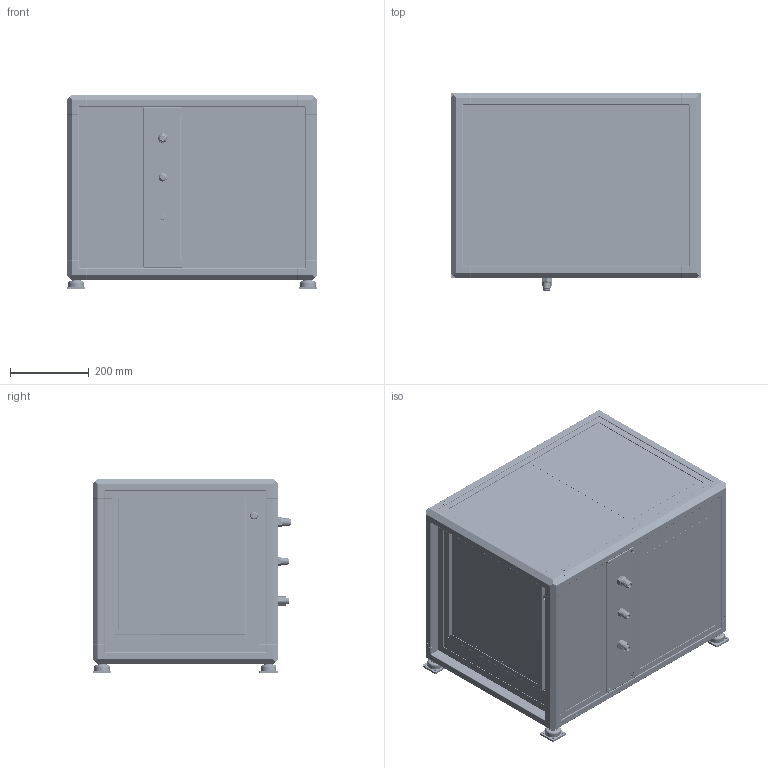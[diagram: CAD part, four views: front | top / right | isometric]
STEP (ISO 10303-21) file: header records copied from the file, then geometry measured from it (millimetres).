
FILE_DESCRIPTION(/* description */ (''),/* implementation_level */ '2;1');
FILE_NAME(/* name */ '\\NASTMDMARINE\Disegni\Disegni\01_Prodotti\AHU2000T\04_File CAD per condivisione\AHU2000T.stp',/* time_stamp */ '2021-11-15T13:47:27+01:00',/* author */ ('CAD 1'),/* organization */ (''),/* preprocessor_version */ 'ST-DEVELOPER v18.1',/* originating_system */ 'Autodesk Inventor 2021',/* authorisation */ '');
FILE_SCHEMA (('AUTOMOTIVE_DESIGN { 1 0 10303 214 3 1 1 }'));
Products named in the file (54): AHU2000; Telaio AHU2000_GR31; APS_Arosio_PS130-25-0_421_GR31V_filtrro; APS_Arosio_PS130-25-0_GR31V; APS_Arosio_PS130-25-0_1250-2_GR31V; Testata Telaio _GR31V; APS_Arosio_PS130-25-0_Giunto_GR31V; Giunto_p3_GR31V; Giunto_p2_GR31V; APS_Arosio_PS130-25-0_421_GR31V; APS_Arosio_PS130-25-0_551_GR31V; APS_Arosio_PS130-25-0_1251_GR31V; APS_Arosio_PS130-25-0_125_GR31V; 164052-H01_l-al-5613-01-00 gr31v; AHU2000_070; AHU2000_V; AHU2000_050; AHU2000_SUP31; Hydro_Connection_5_8; Hydro_Connection_1_2; AHU2000_ISO; iso_AHU2000; iso_base_AHU2000; iso_lato_corto; iso_AHU2000_MIR; iso_lato_corto_no_foro; BB20; Pannello_AHU2000_5; Pannello_AHU2000_1; Pannello_AHU2000_7; Pannello_AHU2000_3; Pannello_AHU2000_2; Pannello_AHU2000_4; Batteria; KK03_000; KK03_Pacco; KK03.B_000; KK03.A_000; KK03.C_000; KK03.L_000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
Assembly tree (181 placements, depth 5):
  AHU2000
    Telaio AHU2000_GR31
      APS_Arosio_PS130-25-0_Giunto_GR31V  x4
        Giunto_p2_GR31V
        Giunto_p3_GR31V
      APS_Arosio_PS130-25-0_421_GR31V_filtrro
      APS_Arosio_PS130-25-0_421_GR31V
      APS_Arosio_PS130-25-0_551_GR31V  x2
      APS_Arosio_PS130-25-0_GR31V
      APS_Arosio_PS130-25-0_1250-2_GR31V
      Testata Telaio _GR31V
        APS_Arosio_PS130-25-0_Giunto_GR31V  x4
          Giunto_p2_GR31V
          Giunto_p3_GR31V
        APS_Arosio_PS130-25-0_421_GR31V  x2
        APS_Arosio_PS130-25-0_551_GR31V  x2
      APS_Arosio_PS130-25-0_1251_GR31V
      APS_Arosio_PS130-25-0_125_GR31V
    164052-H01_l-al-5613-01-00 gr31v
    AHU2000_070
    AHU2000_V
    AHU2000_050
    AHU2000_SUP31
    Hydro_Connection_5_8
    Hydro_Connection_1_2
    AHU2000_ISO
      iso_AHU2000
      iso_base_AHU2000
      iso_lato_corto
      iso_AHU2000_MIR
      iso_lato_corto_no_foro
    BB20  x4
    Pannello_AHU2000_5
    Pannello_AHU2000_1
    Pannello_AHU2000_7
    Pannello_AHU2000_3
    Pannello_AHU2000_2
    Pannello_AHU2000_4
    Batteria
      KK03_000
        KK03_Pacco
        KK03.B_000
        KK03.A_000
        KK03.C_000  x2
        imbocco_15  x75
        KK03.L_000
        KK03.I_000
          KK03.I_000_1
          1020_05
        KK03.G_000
        KK03.S_000
        KK03.F_000
        2010_00_2010.01
        Forcina_25_h18_8_20  x23
        Forcina_25_h18_20  x14
      MRS_030  x2
    Pressaguaina Gewiss DX54216 -  (PG16 adattato)
    Pressacavo PG9
    Filtro poliuretano nero
Bounding box: 635 x 504.01 x 493 mm (x, y, z)
Volume: 46253232 mm3; surface area: 9330925.2 mm2
Topology: 248 solids, 286 shells, 7239 faces, 18082 edges, 11641 vertices
Faces by surface type: plane 2805, cylinder 2438, bspline 1193, torus 518, sphere 219, cone 66
Full cylindrical faces by diameter (mm): 3.3 x1, 3.5 x4, 4 x17, 4.2 x30, 4.5 x56, 4.7 x1, 5 x23, 5.459 x4, 6 x5, 6.6 x6, 6.64 x46, 6.8 x4, 7 x16, 7.2 x2, 7.4 x1, 7.64 x1, 7.72 x4, 7.74 x23, 7.94 x46, 8.22 x28, 8.5 x8, 8.72 x75, 8.8 x1, 8.91 x1, 9 x10, 9.144 x1, 9.18 x2, 9.32 x89, 9.52 x108, 10 x130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
Entity records: 117080 total; most frequent: CARTESIAN_POINT 35521, DIRECTION 16619, ORIENTED_EDGE 15976, EDGE_CURVE 7988, AXIS2_PLACEMENT_3D 6091, VERTEX_POINT 5383, LINE 4437, VECTOR 4437
